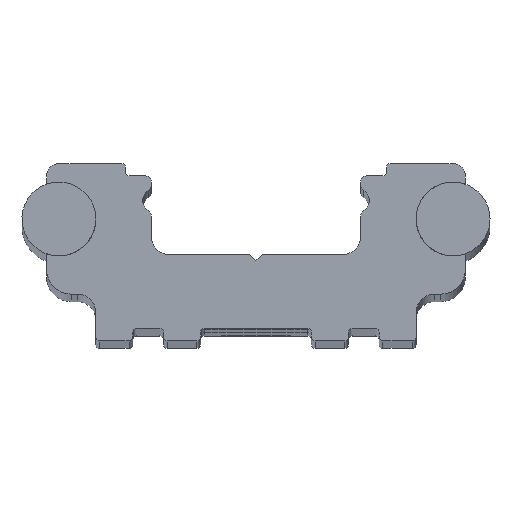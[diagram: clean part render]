
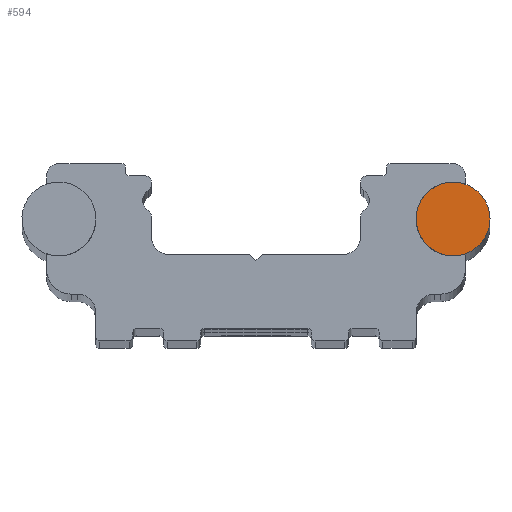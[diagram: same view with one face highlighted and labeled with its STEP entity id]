
A CAD part, top view. The second image highlights one B-rep face of the part: STEP entity #594.
In plain terms, the highlighted planar face has unit normal (0, 0, 1).
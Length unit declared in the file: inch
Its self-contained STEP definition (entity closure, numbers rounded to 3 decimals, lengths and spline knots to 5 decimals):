
#578=CARTESIAN_POINT('',(0.62992,0.38976,6.88986));
#579=DIRECTION('',(0.0,0.0,-1.0));
#580=DIRECTION('',(-1.0,0.0,0.0));
#581=AXIS2_PLACEMENT_3D('',#578,#579,#580);
#582=PLANE('',#581);
#583=CARTESIAN_POINT('',(0.74803,0.38976,6.88986));
#584=VERTEX_POINT('',#583);
#585=CARTESIAN_POINT('',(0.62992,0.38976,6.88986));
#586=DIRECTION('',(0.0,0.0,-1.0));
#587=DIRECTION('',(-1.0,0.0,0.0));
#588=AXIS2_PLACEMENT_3D('',#585,#586,#587);
#589=CIRCLE('',#588,0.11811);
#590=EDGE_CURVE('',#584,#584,#589,.T.);
#591=ORIENTED_EDGE('',*,*,#590,.F.);
#592=EDGE_LOOP('',(#591));
#593=FACE_OUTER_BOUND('',#592,.T.);
#594=ADVANCED_FACE('',(#593),#582,.F.);
